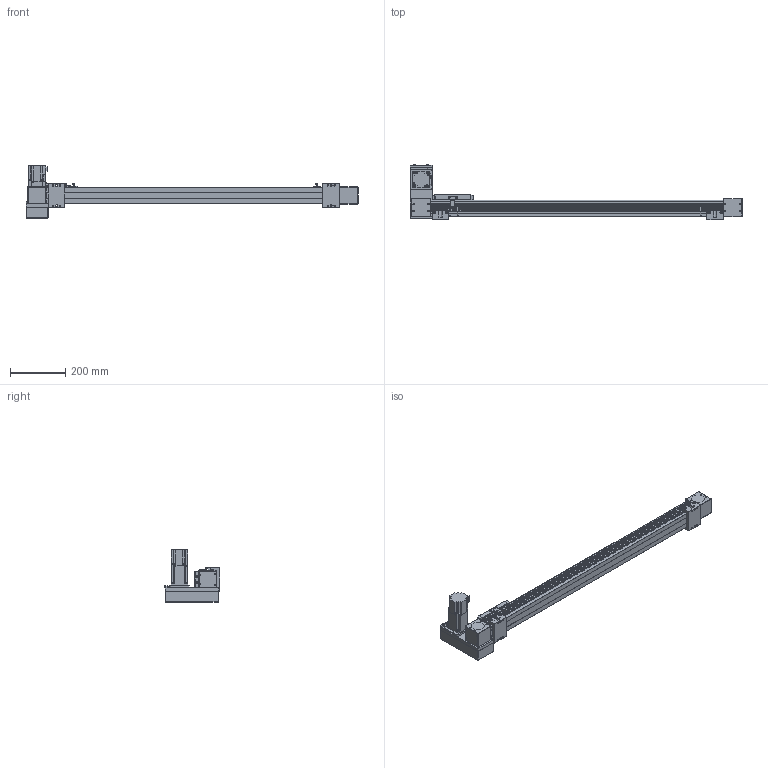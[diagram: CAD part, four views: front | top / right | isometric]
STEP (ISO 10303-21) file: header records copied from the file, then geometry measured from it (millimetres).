
FILE_DESCRIPTION(/* description */ ('STEP AP214'),/* implementation_level */ '2;1');
FILE_NAME(/* name */ 'SK60-P13-S900-LU-T40-C1-N(0)',/* time_stamp */ '2023-04-06T04:47:35+02:00',/* author */ ('License CC BY-ND 4.0'),/* organization */ ('CADENAS'),/* preprocessor_version */ 'ST-DEVELOPER v19.3',/* originating_system */ 'PARTsolutions',/* authorisation */ ' ');
FILE_SCHEMA (('AUTOMOTIVE_DESIGN {1 0 10303 214 3 1 1}'));
Length unit declared in the file: millimetre
Products named in the file (10): SK60-P13-S900-LU-T40-C1-N(0); PSC140-sensor; SK60-S450_seat; SK60-S450-BL-C1_slider; SK60_body3; SK60_body6; SK60-BL_body2; T40-p1; SK60-LU_fb; SK60-S900-LU-C1_body
Assembly tree (16 placements, depth 2):
  SK60-P13-S900-LU-T40-C1-N(0)
    PSC140-sensor  x3
    SK60-S450_seat  x2
    SK60-S450-BL-C1_slider
    SK60_body3  x3
    SK60_body6  x2
    SK60-BL_body2  x2
    T40-p1
    SK60-LU_fb
    SK60-S900-LU-C1_body
Bounding box: 1205.5 x 201 x 189.7 mm (x, y, z)
Volume: 5267862.5 mm3; surface area: 662655.2 mm2
Topology: 16 solids, 16 shells, 810 faces, 2048 edges, 1349 vertices
Faces by surface type: plane 524, cylinder 262, cone 22, torus 2
Full cylindrical faces by diameter (mm): 2.8 x3, 3.3 x4, 4 x2, 4.5 x30, 4.6 x3, 4.917 x16, 5 x6, 5.478 x4, 5.5 x19, 6.5 x4, 7 x2, 8 x4, 8.5 x4, 9.988 x4, 10 x8, 14 x1, 47 x3, 50 x2
Entity records: 18655 total; most frequent: DIRECTION 3184, CARTESIAN_POINT 3150, ORIENTED_EDGE 2940, EDGE_CURVE 1470, AXIS2_PLACEMENT_3D 1068, LINE 1048, VECTOR 1048, VERTEX_POINT 1034
